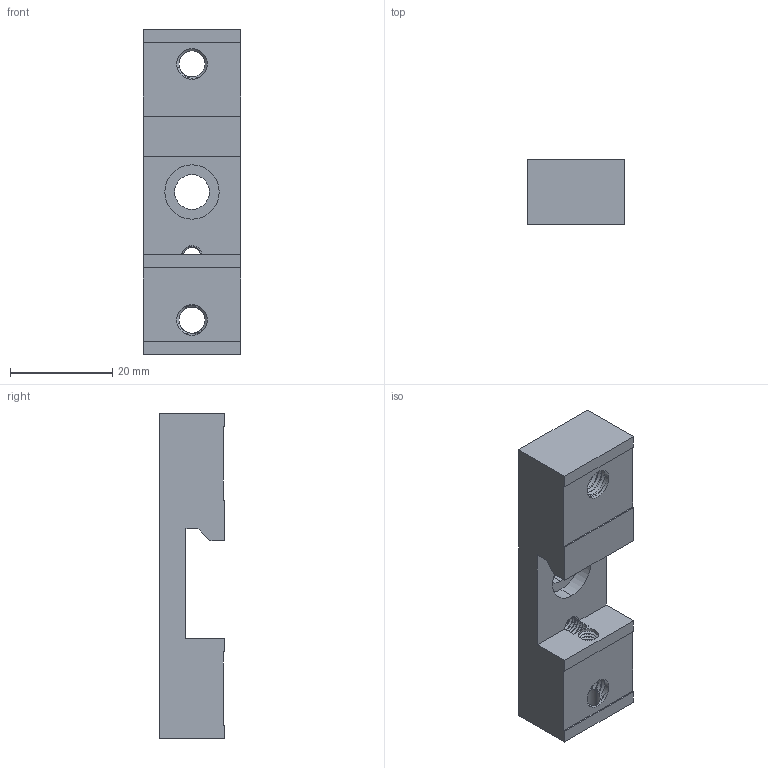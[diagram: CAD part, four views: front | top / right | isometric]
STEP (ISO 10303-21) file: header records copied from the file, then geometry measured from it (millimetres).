
FILE_DESCRIPTION((''),'2;1');
FILE_NAME('OOP-U19','2021-02-24T',('Administrator'),(''),'CREO PARAMETRIC BY PTC INC, 2017300','CREO PARAMETRIC BY PTC INC, 2017300','');
FILE_SCHEMA(('CONFIG_CONTROL_DESIGN'));
Length unit declared in the file: millimetre
Products named in the file (1): OOP-U19
Bounding box: 19 x 12.7 x 63.5 mm (x, y, z)
Volume: 10966.1 mm3; surface area: 6071.5 mm2
Topology: 1 solids, 1 shells, 216 faces, 693 edges, 442 vertices
Faces by surface type: bspline 135, cylinder 49, plane 23, cone 9
Entity records: 25523 total; most frequent: CARTESIAN_POINT 20470, ORIENTED_EDGE 1382, EDGE_CURVE 691, DIRECTION 518, VERTEX_POINT 442, B_SPLINE_CURVE_WITH_KNOTS 379, VECTOR 268, LINE 268
